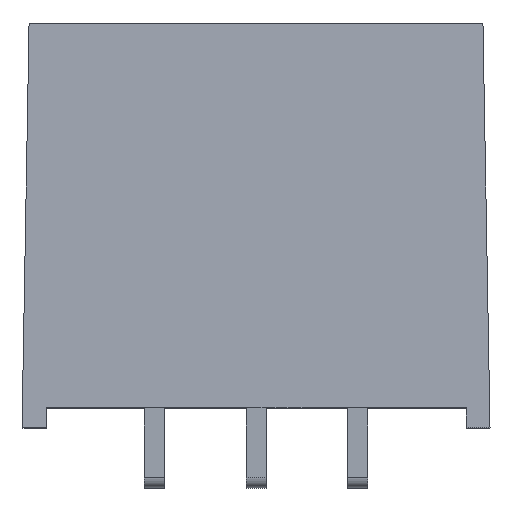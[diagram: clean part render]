
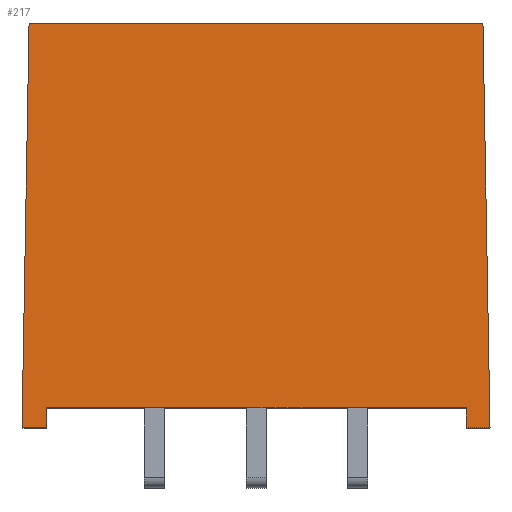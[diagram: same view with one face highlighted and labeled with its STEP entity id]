
A CAD part, top view. The second image highlights one B-rep face of the part: STEP entity #217.
In plain terms, the highlighted planar face has unit normal (0, 0.018, 1).
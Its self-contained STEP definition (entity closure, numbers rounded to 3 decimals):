
#24 = VECTOR ( 'NONE', #204, 1000. ) ;
#42 = PLANE ( 'NONE',  #563 ) ;
#74 = VECTOR ( 'NONE', #311, 1000. ) ;
#136 = EDGE_CURVE ( 'NONE', #753, #556, #351, .T. ) ;
#166 = ORIENTED_EDGE ( 'NONE', *, *, #468, .T. ) ;
#183 = CARTESIAN_POINT ( 'NONE',  ( -5.85, 0., 3.75 ) ) ;
#186 = VERTEX_POINT ( 'NONE', #821 ) ;
#191 = VERTEX_POINT ( 'NONE', #752 ) ;
#204 = DIRECTION ( 'NONE',  ( 0.017, -1., 0.017 ) ) ;
#217 = ADVANCED_FACE ( 'NONE', ( #1019 ), #42, .T. ) ;
#223 = LINE ( 'NONE', #303, #1197 ) ;
#234 = CARTESIAN_POINT ( 'NONE',  ( 5.25, 0., 3.75 ) ) ;
#248 = CARTESIAN_POINT ( 'NONE',  ( 5.25, 0.5, 3.741 ) ) ;
#258 = EDGE_CURVE ( 'NONE', #186, #437, #331, .T. ) ;
#268 = CARTESIAN_POINT ( 'NONE',  ( 5.848, 0.131, 3.748 ) ) ;
#284 = EDGE_CURVE ( 'NONE', #556, #437, #835, .T. ) ;
#290 = CARTESIAN_POINT ( 'NONE',  ( -5.674, 10.1, 3.574 ) ) ;
#298 = VECTOR ( 'NONE', #995, 1000. ) ;
#303 = CARTESIAN_POINT ( 'NONE',  ( -5.85, 0.5, 3.741 ) ) ;
#311 = DIRECTION ( 'NONE',  ( 0., 1., -0.017 ) ) ;
#312 = DIRECTION ( 'NONE',  ( 1., 0., 0. ) ) ;
#331 = LINE ( 'NONE', #268, #24 ) ;
#351 = LINE ( 'NONE', #755, #612 ) ;
#370 = EDGE_CURVE ( 'NONE', #1070, #979, #674, .T. ) ;
#400 = DIRECTION ( 'NONE',  ( 1., 0., 0. ) ) ;
#402 = CARTESIAN_POINT ( 'NONE',  ( -5.85, 0., 3.75 ) ) ;
#404 = EDGE_LOOP ( 'NONE', ( #1078, #1376, #460, #685, #1413, #1003, #510, #166 ) ) ;
#424 = CARTESIAN_POINT ( 'NONE',  ( -5.25, 0., 3.75 ) ) ;
#437 = VERTEX_POINT ( 'NONE', #1384 ) ;
#460 = ORIENTED_EDGE ( 'NONE', *, *, #873, .T. ) ;
#468 = EDGE_CURVE ( 'NONE', #920, #191, #604, .T. ) ;
#510 = ORIENTED_EDGE ( 'NONE', *, *, #1263, .F. ) ;
#522 = LINE ( 'NONE', #922, #1060 ) ;
#556 = VERTEX_POINT ( 'NONE', #234 ) ;
#561 = VECTOR ( 'NONE', #608, 1000. ) ;
#563 = AXIS2_PLACEMENT_3D ( 'NONE', #1077, #1391, #1190 ) ;
#604 = LINE ( 'NONE', #183, #1421 ) ;
#608 = DIRECTION ( 'NONE',  ( 1., 0., 0. ) ) ;
#612 = VECTOR ( 'NONE', #736, 1000. ) ;
#674 = LINE ( 'NONE', #424, #74 ) ;
#685 = ORIENTED_EDGE ( 'NONE', *, *, #136, .T. ) ;
#736 = DIRECTION ( 'NONE',  ( 0., -1., 0.017 ) ) ;
#752 = CARTESIAN_POINT ( 'NONE',  ( -5.85, 0., 3.75 ) ) ;
#753 = VERTEX_POINT ( 'NONE', #248 ) ;
#755 = CARTESIAN_POINT ( 'NONE',  ( 5.25, 0., 3.75 ) ) ;
#821 = CARTESIAN_POINT ( 'NONE',  ( 5.674, 10.1, 3.574 ) ) ;
#835 = LINE ( 'NONE', #402, #561 ) ;
#837 = CARTESIAN_POINT ( 'NONE',  ( -5.25, 0.5, 3.741 ) ) ;
#873 = EDGE_CURVE ( 'NONE', #979, #753, #223, .T. ) ;
#877 = EDGE_CURVE ( 'NONE', #191, #1070, #522, .T. ) ;
#883 = CARTESIAN_POINT ( 'NONE',  ( -5.85, 10.1, 3.574 ) ) ;
#920 = VERTEX_POINT ( 'NONE', #290 ) ;
#922 = CARTESIAN_POINT ( 'NONE',  ( -5.85, 0., 3.75 ) ) ;
#956 = DIRECTION ( 'NONE',  ( -0.017, -1., 0.017 ) ) ;
#979 = VERTEX_POINT ( 'NONE', #837 ) ;
#995 = DIRECTION ( 'NONE',  ( 1., 0., 0. ) ) ;
#1003 = ORIENTED_EDGE ( 'NONE', *, *, #258, .F. ) ;
#1019 = FACE_OUTER_BOUND ( 'NONE', #404, .T. ) ;
#1034 = CARTESIAN_POINT ( 'NONE',  ( -5.25, 0., 3.75 ) ) ;
#1060 = VECTOR ( 'NONE', #400, 1000. ) ;
#1070 = VERTEX_POINT ( 'NONE', #1034 ) ;
#1077 = CARTESIAN_POINT ( 'NONE',  ( -5.85, 0., 3.75 ) ) ;
#1078 = ORIENTED_EDGE ( 'NONE', *, *, #877, .T. ) ;
#1169 = LINE ( 'NONE', #883, #298 ) ;
#1190 = DIRECTION ( 'NONE',  ( 0., -1., 0.017 ) ) ;
#1197 = VECTOR ( 'NONE', #312, 1000. ) ;
#1263 = EDGE_CURVE ( 'NONE', #920, #186, #1169, .T. ) ;
#1376 = ORIENTED_EDGE ( 'NONE', *, *, #370, .T. ) ;
#1384 = CARTESIAN_POINT ( 'NONE',  ( 5.85, 0., 3.75 ) ) ;
#1391 = DIRECTION ( 'NONE',  ( 0., 0.017, 1. ) ) ;
#1413 = ORIENTED_EDGE ( 'NONE', *, *, #284, .T. ) ;
#1421 = VECTOR ( 'NONE', #956, 1000. ) ;
